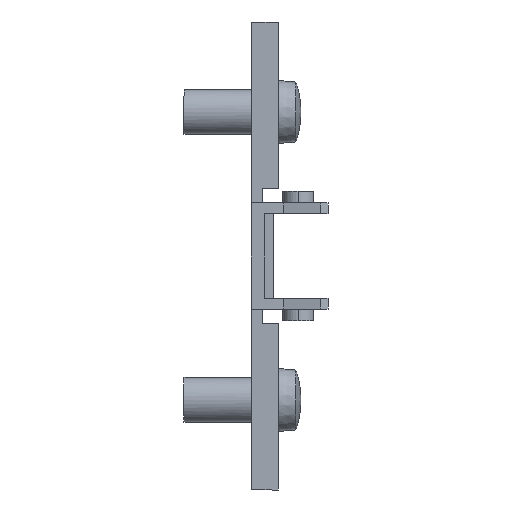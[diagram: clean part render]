
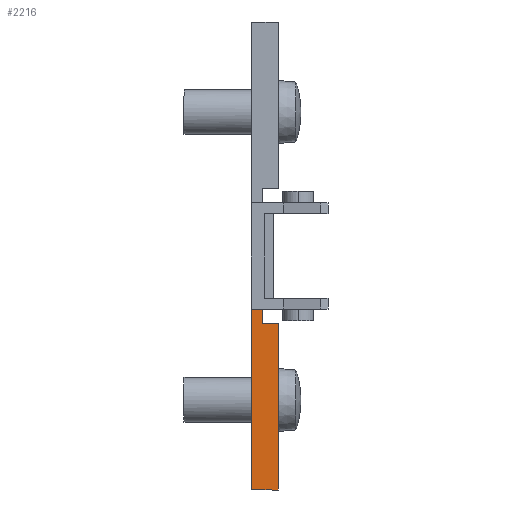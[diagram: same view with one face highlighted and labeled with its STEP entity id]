
A CAD part, front view. The second image highlights one B-rep face of the part: STEP entity #2216.
In plain terms, the highlighted planar face has unit normal (0, -1, 0).
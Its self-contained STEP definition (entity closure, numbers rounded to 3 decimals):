
#42 = VERTEX_POINT ( 'NONE', #2324 ) ;
#65 = VERTEX_POINT ( 'NONE', #2344 ) ;
#119 = VERTEX_POINT ( 'NONE', #2281 ) ;
#123 = VERTEX_POINT ( 'NONE', #2404 ) ;
#137 = VERTEX_POINT ( 'NONE', #2431 ) ;
#184 = VERTEX_POINT ( 'NONE', #2451 ) ;
#256 = VECTOR ( 'NONE', #782, 1000. ) ;
#268 = LINE ( 'NONE', #789, #256 ) ;
#325 = LINE ( 'NONE', #735, #332 ) ;
#332 = VECTOR ( 'NONE', #739, 1000. ) ;
#370 = EDGE_CURVE ( 'NONE', #119, #65, #3438, .T. ) ;
#543 = AXIS2_PLACEMENT_3D ( 'NONE', #1316, #1347, #1346 ) ;
#735 = CARTESIAN_POINT ( 'NONE',  ( 3., -9., -7.5 ) ) ;
#739 = DIRECTION ( 'NONE',  ( 0., 0., 1. ) ) ;
#782 = DIRECTION ( 'NONE',  ( -1., 0., 0. ) ) ;
#789 = CARTESIAN_POINT ( 'NONE',  ( 1.2, -9., -7.5 ) ) ;
#1004 = CARTESIAN_POINT ( 'NONE',  ( 1.2, -9., -5. ) ) ;
#1025 = DIRECTION ( 'NONE',  ( 0., 0., 1. ) ) ;
#1316 = CARTESIAN_POINT ( 'NONE',  ( 1.2, -9., -5. ) ) ;
#1346 = DIRECTION ( 'NONE',  ( 0., 0., 1. ) ) ;
#1347 = DIRECTION ( 'NONE',  ( 0., 1., 0. ) ) ;
#1349 = PLANE ( 'NONE',  #543 ) ;
#1407 = CARTESIAN_POINT ( 'NONE',  ( 1.2, -9., -5.9 ) ) ;
#1423 = DIRECTION ( 'NONE',  ( 1., 0., 0. ) ) ;
#1475 = DIRECTION ( 'NONE',  ( 0., 0., -1. ) ) ;
#1477 = CARTESIAN_POINT ( 'NONE',  ( 0., -9., -26. ) ) ;
#1732 = VECTOR ( 'NONE', #1025, 1000. ) ;
#1764 = LINE ( 'NONE', #1004, #1732 ) ;
#1886 = ORIENTED_EDGE ( 'NONE', *, *, #2763, .F. ) ;
#1887 = ORIENTED_EDGE ( 'NONE', *, *, #2770, .T. ) ;
#1888 = ORIENTED_EDGE ( 'NONE', *, *, #370, .T. ) ;
#1889 = ORIENTED_EDGE ( 'NONE', *, *, #2830, .T. ) ;
#1890 = ORIENTED_EDGE ( 'NONE', *, *, #2869, .T. ) ;
#1891 = ORIENTED_EDGE ( 'NONE', *, *, #2963, .T. ) ;
#2216 = ADVANCED_FACE ( 'NONE', ( #3286 ), #1349, .F. ) ;
#2281 = CARTESIAN_POINT ( 'NONE',  ( 0., -9., -26. ) ) ;
#2324 = CARTESIAN_POINT ( 'NONE',  ( 1.2, -9., -7.5 ) ) ;
#2344 = CARTESIAN_POINT ( 'NONE',  ( 3., -9., -26. ) ) ;
#2404 = CARTESIAN_POINT ( 'NONE',  ( 1.2, -9., -5.9 ) ) ;
#2431 = CARTESIAN_POINT ( 'NONE',  ( 0., -9., -5.9 ) ) ;
#2451 = CARTESIAN_POINT ( 'NONE',  ( 3., -9., -7.5 ) ) ;
#2470 = CARTESIAN_POINT ( 'NONE',  ( 3., -9., -26. ) ) ;
#2473 = DIRECTION ( 'NONE',  ( 1., 0., 0. ) ) ;
#2554 = EDGE_LOOP ( 'NONE', ( #1886, #1887, #1888, #1889, #1890, #1891 ) ) ;
#2763 = EDGE_CURVE ( 'NONE', #137, #123, #3209, .T. ) ;
#2770 = EDGE_CURVE ( 'NONE', #137, #119, #3197, .T. ) ;
#2830 = EDGE_CURVE ( 'NONE', #65, #184, #325, .T. ) ;
#2869 = EDGE_CURVE ( 'NONE', #184, #42, #268, .T. ) ;
#2963 = EDGE_CURVE ( 'NONE', #42, #123, #1764, .T. ) ;
#3193 = VECTOR ( 'NONE', #1475, 1000. ) ;
#3197 = LINE ( 'NONE', #1477, #3193 ) ;
#3205 = VECTOR ( 'NONE', #1423, 1000. ) ;
#3209 = LINE ( 'NONE', #1407, #3205 ) ;
#3286 = FACE_OUTER_BOUND ( 'NONE', #2554, .T. ) ;
#3429 = VECTOR ( 'NONE', #2473, 1000. ) ;
#3438 = LINE ( 'NONE', #2470, #3429 ) ;
